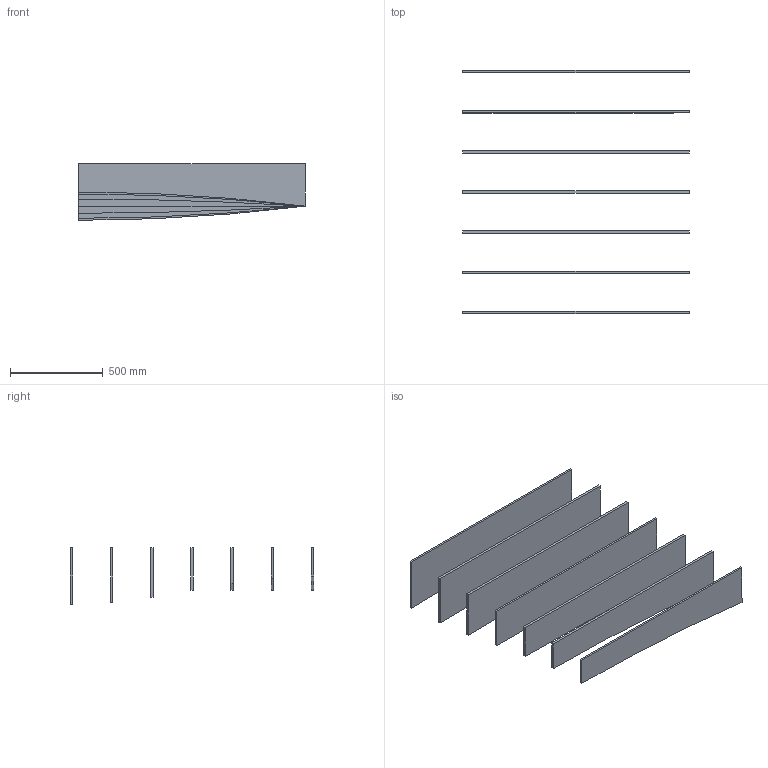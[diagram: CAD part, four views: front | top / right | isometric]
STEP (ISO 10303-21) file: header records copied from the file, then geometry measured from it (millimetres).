
FILE_DESCRIPTION(/* description */ (''),/* implementation_level */ '2;1');
FILE_NAME(/* name */ 'Topo Swell Half Simplified',/* time_stamp */ '2026-04-13T11:39:48-05:00',/* author */ (''),/* organization */ (''),/* preprocessor_version */ 'ST-DEVELOPER v19.2',/* originating_system */ 'Rhino 8.29',/* authorisation */ '');
FILE_SCHEMA (('CONFIG_CONTROL_DESIGN'));
Length unit declared in the file: inch
Products named in the file (1): Document
Bounding box: 1219.2 x 1308.1 x 304.8 mm (x, y, z)
Volume: 24777240.8 mm3; surface area: 4159506.5 mm2
Topology: 7 solids, 7 shells, 42 faces, 84 edges, 56 vertices
Faces by surface type: plane 36, cylinder 6
Entity records: 1072 total; most frequent: CARTESIAN_POINT 280, ORIENTED_EDGE 168, EDGE_CURVE 84, DIRECTION 70, B_SPLINE_CURVE_WITH_KNOTS 66, VERTEX_POINT 56, AXIS2_PLACEMENT_3D 56, ADVANCED_FACE 42
